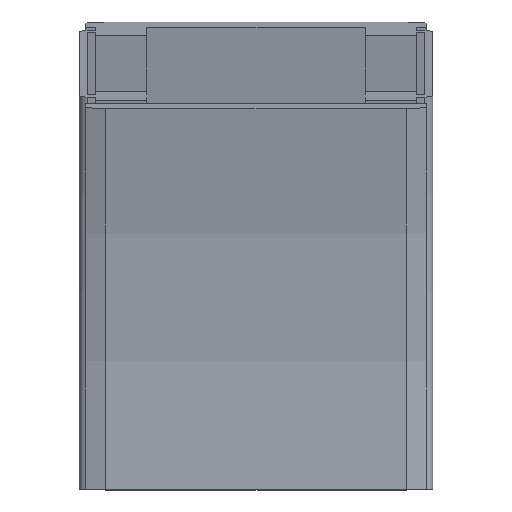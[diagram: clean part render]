
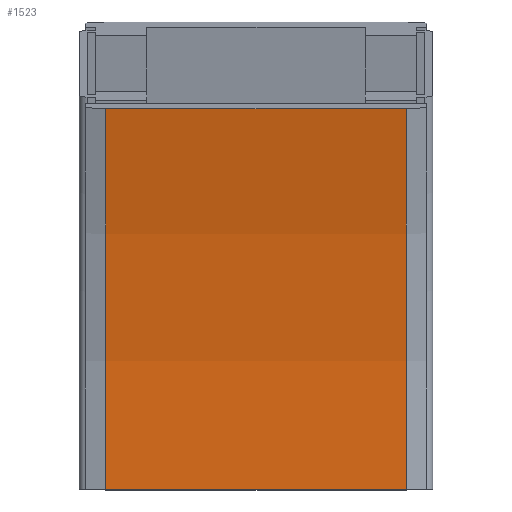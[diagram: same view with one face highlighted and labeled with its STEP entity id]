
A CAD part, top view. The second image highlights one B-rep face of the part: STEP entity #1523.
In plain terms, the highlighted cylindrical face has radius 357.5 mm (diameter 715 mm), a partial arc.
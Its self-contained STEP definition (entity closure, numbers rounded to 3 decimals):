
#79=CYLINDRICAL_SURFACE('',#1637,357.5);
#110=FACE_OUTER_BOUND('',#197,.T.);
#197=EDGE_LOOP('',(#1004,#1005,#1006,#1007));
#289=CIRCLE('',#1636,357.5);
#290=CIRCLE('',#1638,357.5);
#358=LINE('',#2198,#484);
#359=LINE('',#2200,#485);
#484=VECTOR('',#1790,10.);
#485=VECTOR('',#1791,10.);
#610=VERTEX_POINT('',#2191);
#611=VERTEX_POINT('',#2193);
#612=VERTEX_POINT('',#2197);
#613=VERTEX_POINT('',#2199);
#768=EDGE_CURVE('',#610,#611,#289,.T.);
#769=EDGE_CURVE('',#612,#610,#358,.T.);
#770=EDGE_CURVE('',#613,#611,#359,.T.);
#771=EDGE_CURVE('',#612,#613,#290,.T.);
#1004=ORIENTED_EDGE('',*,*,#769,.T.);
#1005=ORIENTED_EDGE('',*,*,#768,.T.);
#1006=ORIENTED_EDGE('',*,*,#770,.F.);
#1007=ORIENTED_EDGE('',*,*,#771,.F.);
#1523=ADVANCED_FACE('',(#110),#79,.F.);
#1636=AXIS2_PLACEMENT_3D('',#2195,#1786,#1787);
#1637=AXIS2_PLACEMENT_3D('',#2196,#1788,#1789);
#1638=AXIS2_PLACEMENT_3D('',#2201,#1792,#1793);
#1786=DIRECTION('center_axis',(1.,0.,0.));
#1787=DIRECTION('ref_axis',(0.,0.,-1.));
#1788=DIRECTION('center_axis',(1.,0.,0.));
#1789=DIRECTION('ref_axis',(0.,0.,-1.));
#1790=DIRECTION('',(1.,0.,0.));
#1791=DIRECTION('',(1.,0.,0.));
#1792=DIRECTION('center_axis',(1.,0.,0.));
#1793=DIRECTION('ref_axis',(0.,0.,-1.));
#2191=CARTESIAN_POINT('',(36.5,0.,42.5));
#2193=CARTESIAN_POINT('',(36.5,92.528,54.682));
#2195=CARTESIAN_POINT('Origin',(36.5,0.,400.));
#2196=CARTESIAN_POINT('Origin',(0.,0.,400.));
#2197=CARTESIAN_POINT('',(-36.5,0.,42.5));
#2198=CARTESIAN_POINT('',(-36.5,0.,42.5));
#2199=CARTESIAN_POINT('',(-36.5,92.528,54.682));
#2200=CARTESIAN_POINT('',(-36.5,92.528,54.682));
#2201=CARTESIAN_POINT('Origin',(-36.5,0.,
400.));
